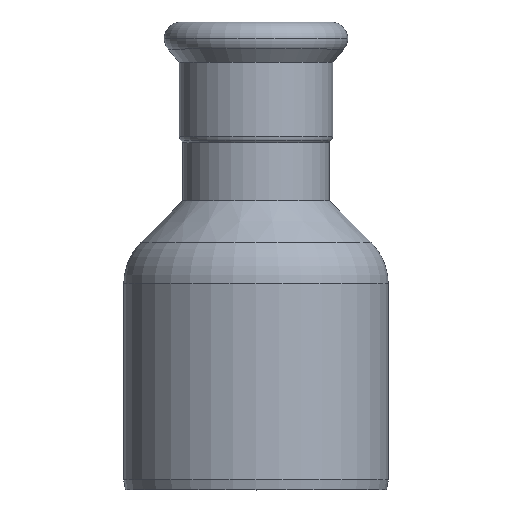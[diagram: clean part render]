
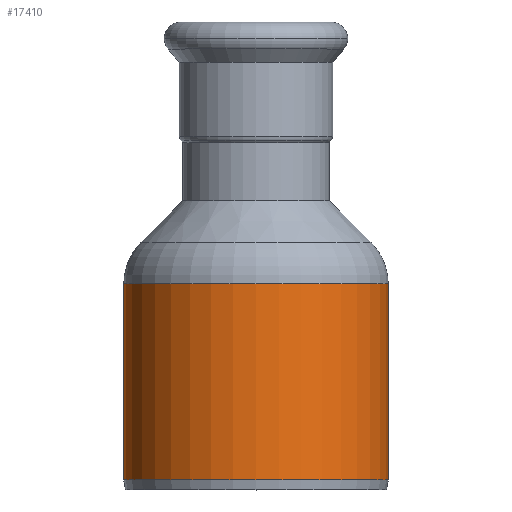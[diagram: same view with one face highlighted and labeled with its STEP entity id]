
A CAD part, top view. The second image highlights one B-rep face of the part: STEP entity #17410.
In plain terms, the highlighted cylindrical face has radius 27 mm (diameter 54 mm), a partial arc.
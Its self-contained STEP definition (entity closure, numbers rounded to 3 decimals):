
#1950=CARTESIAN_POINT('',(-202.976,33.421,0.));
#1960=DIRECTION('',(0.,-1.,0.));
#1970=DIRECTION('',(1.,0.,0.));
#1980=AXIS2_PLACEMENT_3D('',#1950,#1960,#1970);
#1990=CYLINDRICAL_SURFACE('',#1980,27.);
#2000=CARTESIAN_POINT('',(-175.976,33.421,0.));
#2010=DIRECTION('',(0.,-1.,0.));
#2020=VECTOR('',#2010,1.);
#2030=LINE('',#2000,#2020);
#2040=CARTESIAN_POINT('',(-175.976,9.15,0.));
#2050=VERTEX_POINT('',#2040);
#2060=CARTESIAN_POINT('',(-175.976,-30.879,0.));
#2070=VERTEX_POINT('',#2060);
#2080=EDGE_CURVE('',#2050,#2070,#2030,.T.);
#2100=CARTESIAN_POINT('',(-202.976,9.15,0.));
#2110=DIRECTION('',(0.,-1.,0.));
#2120=DIRECTION('',(-1.,0.,0.));
#2130=AXIS2_PLACEMENT_3D('',#2100,#2110,#2120);
#2140=CIRCLE('',#2130,27.);
#2150=CARTESIAN_POINT('',(-229.976,9.15,0.));
#2160=VERTEX_POINT('',#2150);
#2190=CARTESIAN_POINT('',(-229.976,33.421,
0.));
#2200=DIRECTION('',(0.,-1.,0.));
#2210=VECTOR('',#2200,1.);
#2220=LINE('',#2190,#2210);
#2230=CARTESIAN_POINT('',(-229.976,-30.879,
0.));
#2240=VERTEX_POINT('',#2230);
#2250=EDGE_CURVE('',#2160,#2240,#2220,.T.);
#2270=CARTESIAN_POINT('',(-202.976,-30.879,0.));
#2280=DIRECTION('',(0.,-1.,0.));
#2290=DIRECTION('',(-1.,0.,0.));
#2300=AXIS2_PLACEMENT_3D('',#2270,#2280,#2290);
#2310=CIRCLE('',#2300,27.);
#17070=EDGE_CURVE('',#2050,#2160,#2140,.T.);
#17340=ORIENTED_EDGE('',*,*,#2080,.F.);
#17350=EDGE_CURVE('',#2070,#2240,#2310,.T.);
#17360=ORIENTED_EDGE('',*,*,#17350,.F.);
#17370=ORIENTED_EDGE('',*,*,#2250,.T.);
#17380=ORIENTED_EDGE('',*,*,#17070,.T.);
#17390=EDGE_LOOP('',(#17380,#17370,#17360,#17340));
#17400=FACE_OUTER_BOUND('',#17390,.T.);
#17410=ADVANCED_FACE('',(#17400),#1990,.T.);
